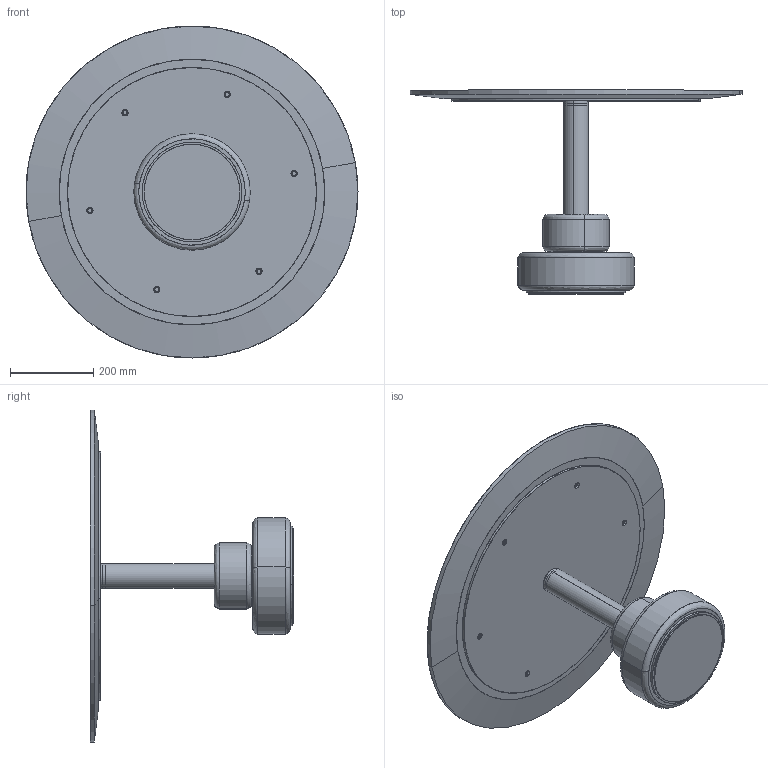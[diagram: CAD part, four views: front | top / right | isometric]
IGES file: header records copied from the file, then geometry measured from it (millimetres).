
Start section: SolidWorks IGES file using analytic representation for surfaces
Global section: file name: C:\Users\SoldaClaudio\Desktop\MENHIR\3D\004230.IGS; native system: SolidWorks 2019; preprocessor: SolidWorks 2019; author: SoldaClaudio; date: 201218.105236; units: millimetre
Bounding box: 799.99 x 491 x 799.99 mm (x, y, z)
Surface area: 2322839.4 mm2 (no closed solid volume)
Topology: 0 solids, 0 shells, 466 faces, 7556 edges, 7556 vertices
Faces by surface type: bspline 324, revolution 142
